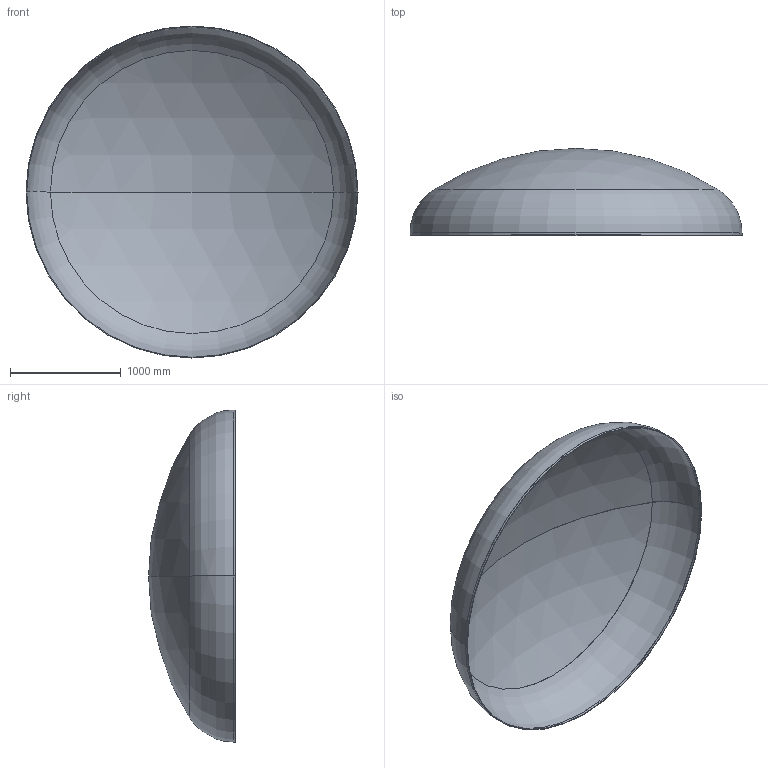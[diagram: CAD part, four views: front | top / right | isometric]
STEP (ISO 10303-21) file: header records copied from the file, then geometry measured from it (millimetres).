
FILE_DESCRIPTION (( 'STEP AP203' ), '1' );
FILE_NAME ('DIN 28013 Korbbogenform_-_Boden DIN 28013 - 3000 x 20 - I - s=6.step', '2016-07-01T17:26:01', ( '' ), ( '' ), 'SwSTEP 2.0', 'SolidWorks 2013', '' );
FILE_SCHEMA (( 'CONFIG_CONTROL_DESIGN' ));
Length unit declared in the file: millimetre
Products named in the file (1): DIN 28013 Korbbogenform_-_Boden DIN 28013 - 3000 x 20 - I - s=6
Bounding box: 3000 x 784.52 x 3000 mm (x, y, z)
Volume: 59669074.3 mm3; surface area: 19946194.2 mm2
Topology: 1 solids, 1 shells, 13 faces, 24 edges, 14 vertices
Faces by surface type: torus 4, cylinder 4, sphere 4, plane 1
Entity records: 407 total; most frequent: DIRECTION 72, CARTESIAN_POINT 52, ORIENTED_EDGE 48, AXIS2_PLACEMENT_3D 34, EDGE_CURVE 24, CIRCLE 20, VERTEX_POINT 14, EDGE_LOOP 14
